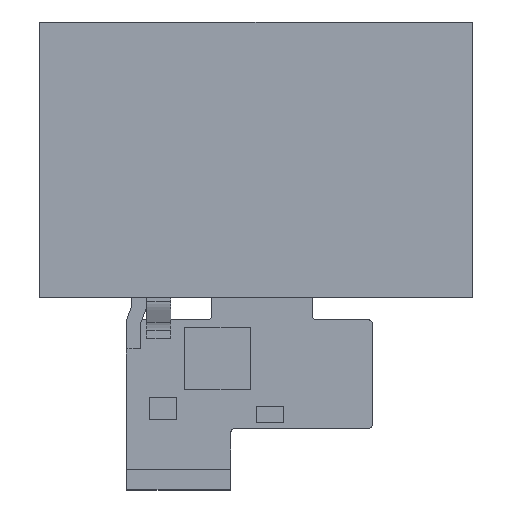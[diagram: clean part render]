
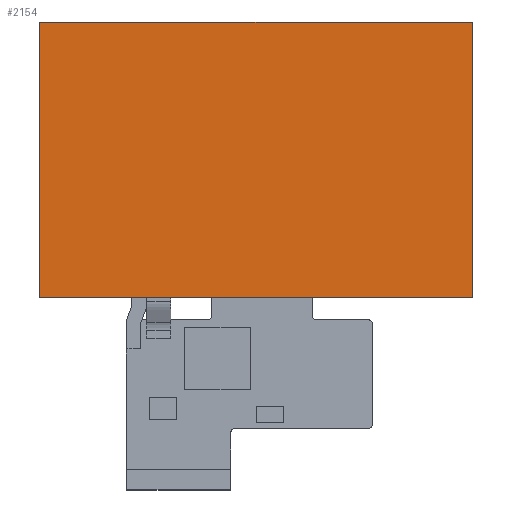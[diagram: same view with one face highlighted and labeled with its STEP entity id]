
A CAD part, top view. The second image highlights one B-rep face of the part: STEP entity #2154.
In plain terms, the highlighted planar face has unit normal (0, 0, 1).
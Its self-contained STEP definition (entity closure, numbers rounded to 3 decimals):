
#767=DIRECTION('',(0.,1.,0.));
#768=VECTOR('',#767,67.17);
#769=CARTESIAN_POINT('',(52.76,-35.962,2.6));
#770=LINE('',#769,#768);
#771=DIRECTION('',(1.,0.,0.));
#772=VECTOR('',#771,105.52);
#773=CARTESIAN_POINT('',(-52.76,-35.962,2.6));
#774=LINE('',#773,#772);
#775=DIRECTION('',(0.,-1.,0.));
#776=VECTOR('',#775,67.17);
#777=CARTESIAN_POINT('',(-52.76,31.208,2.6));
#778=LINE('',#777,#776);
#779=DIRECTION('',(-1.,0.,0.));
#780=VECTOR('',#779,105.52);
#781=CARTESIAN_POINT('',(52.76,31.208,2.6));
#782=LINE('',#781,#780);
#977=CARTESIAN_POINT('',(52.76,-35.962,2.6));
#978=CARTESIAN_POINT('',(52.76,31.208,2.6));
#979=VERTEX_POINT('',#977);
#980=VERTEX_POINT('',#978);
#981=CARTESIAN_POINT('',(-52.76,31.208,2.6));
#982=VERTEX_POINT('',#981);
#983=CARTESIAN_POINT('',(-52.76,-35.962,2.6));
#984=VERTEX_POINT('',#983);
#2143=CARTESIAN_POINT('',(0.,0.,2.6));
#2144=DIRECTION('',(0.,0.,1.));
#2145=DIRECTION('',(1.,0.,0.));
#2146=AXIS2_PLACEMENT_3D('',#2143,#2144,#2145);
#2147=PLANE('',#2146);
#2148=ORIENTED_EDGE('',*,*,#1056,.F.);
#2149=ORIENTED_EDGE('',*,*,#1071,.F.);
#2150=ORIENTED_EDGE('',*,*,#2123,.F.);
#2151=ORIENTED_EDGE('',*,*,#2136,.F.);
#2152=EDGE_LOOP('',(#2148,#2149,#2150,#2151));
#2153=FACE_OUTER_BOUND('',#2152,.F.);
#1056=EDGE_CURVE('',#979,#980,#770,.T.);
#1071=EDGE_CURVE('',#984,#979,#774,.T.);
#2123=EDGE_CURVE('',#982,#984,#778,.T.);
#2136=EDGE_CURVE('',#980,#982,#782,.T.);
#2154=ADVANCED_FACE('',(#2153),#2147,.T.);
